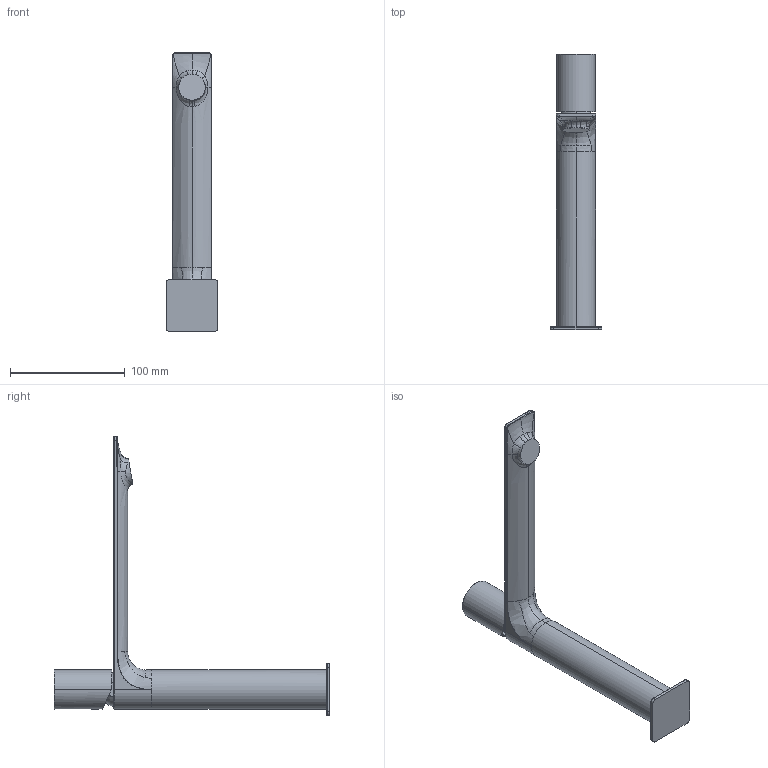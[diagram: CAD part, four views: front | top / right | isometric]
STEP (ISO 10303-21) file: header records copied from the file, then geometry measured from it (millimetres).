
FILE_DESCRIPTION((''),'2;1');
FILE_NAME('78040S_SW0001','2020-05-21T10:30:14',('volponeff'),(''),'CREO PARAMETRIC BY PTC INC, 2018100','CREO PARAMETRIC BY PTC INC, 2018100','');
FILE_SCHEMA(('CONFIG_CONTROL_DESIGN'));
Length unit declared in the file: millimetre
Products named in the file (1): 78040S_SW0001
Bounding box: 45 x 240 x 242.5 mm (x, y, z)
Volume: 266316 mm3; surface area: 55289.8 mm2
Topology: 1 solids, 2 shells, 194 faces, 487 edges, 284 vertices
Faces by surface type: cylinder 60, plane 52, bspline 32, cone 29, torus 17, extrusion 2, sphere 2
Entity records: 8253 total; most frequent: CARTESIAN_POINT 3849, ORIENTED_EDGE 938, DIRECTION 887, EDGE_CURVE 469, AXIS2_PLACEMENT_3D 356, VERTEX_POINT 284, EDGE_LOOP 205, CIRCLE 196
